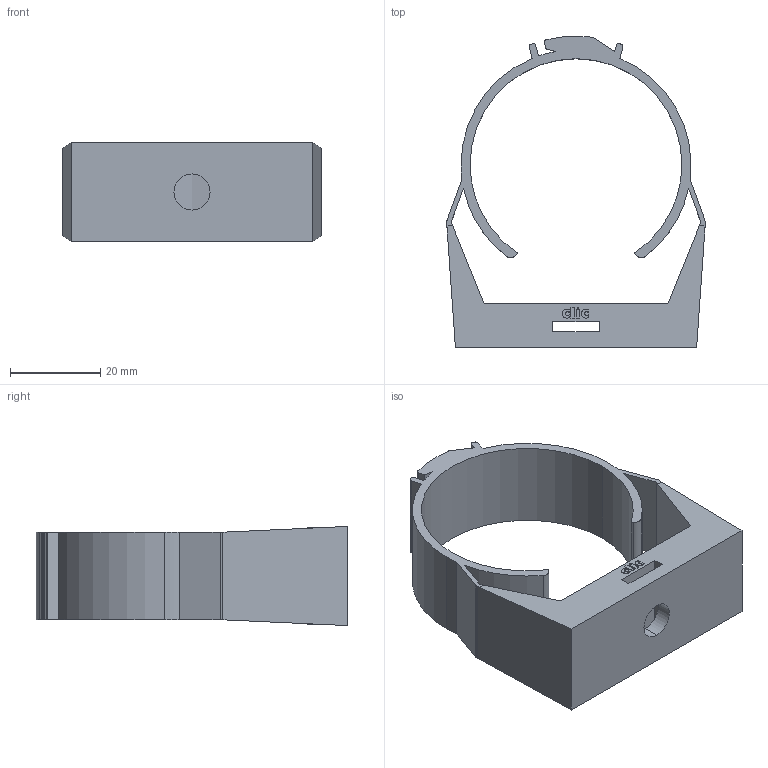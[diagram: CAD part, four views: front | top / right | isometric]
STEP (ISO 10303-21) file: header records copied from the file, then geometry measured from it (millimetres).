
FILE_DESCRIPTION (( 'STEP AP214' ), '1' );
FILE_NAME ('CLIC47.STEP', '2021-10-11T09:44:17', ( '' ), ( '' ), 'SwSTEP 2.0', 'SolidWorks 2021', '' );
FILE_SCHEMA (( 'AUTOMOTIVE_DESIGN' ));
Length unit declared in the file: millimetre
Products named in the file (1): CLIC47
Bounding box: 57.38 x 69.1 x 22 mm (x, y, z)
Volume: 19701 mm3; surface area: 12377.1 mm2
Topology: 1 solids, 1 shells, 118 faces, 324 edges, 216 vertices
Faces by surface type: plane 61, cylinder 29, bspline 28
Entity records: 3860 total; most frequent: CARTESIAN_POINT 1023, ORIENTED_EDGE 648, DIRECTION 508, EDGE_CURVE 324, VERTEX_POINT 216, LINE 210, VECTOR 210, AXIS2_PLACEMENT_3D 149
